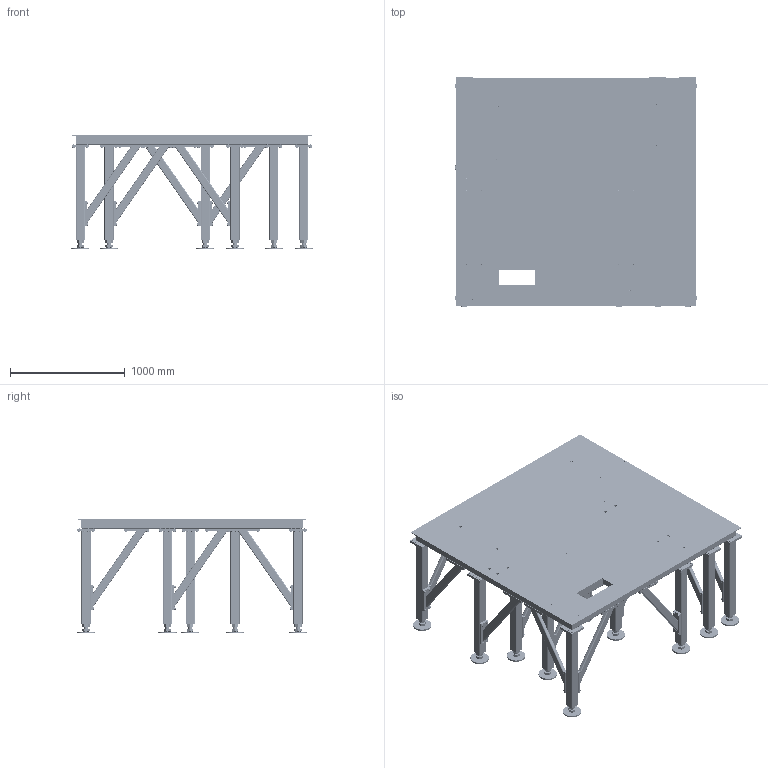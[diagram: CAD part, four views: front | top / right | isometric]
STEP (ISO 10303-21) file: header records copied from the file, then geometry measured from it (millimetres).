
FILE_DESCRIPTION (( 'STEP AP214' ), '1' );
FILE_NAME ('FAU-THN7-01.STEP', '2025-02-02T12:10:01', ( '' ), ( '' ), 'SwSTEP 2.0', 'SolidWorks 2017', '' );
FILE_SCHEMA (( 'AUTOMOTIVE_DESIGN' ));
Length unit declared in the file: millimetre
Products named in the file (18): FAU-THN7-07; FAU-THN7-05_2; z_Screw_H_SCREW H M10x30-26; z-M10 assy; z-ecrou_m36; THN7-ESQ; FAU-THN7-05_1; FAU-THN7-03-04_TOLE INOX; FAU-THN7-06_1<Brut d''usinage>; FAU-THN7-03-04; FAU-THN7-05_2<Brut d''usinage>; z_Washer_WASHER M 10; FAU-THN7-02_D‚faut<Brut d''usinage>; FAU-THN7-07_DWG; FAU-THN7-05_1<Brut d''usinage>; THN7-ESQ-ROUGE; FAU-THN7-01; z_m36x140
Assembly tree (165 placements, depth 4):
  THN7-ESQ
  THN7-ESQ-ROUGE
  FAU-THN7-01
    FAU-THN7-02_D‚faut<Brut d''usinage>
    FAU-THN7-05_1  x12
      FAU-THN7-05_2<Brut d''usinage>
      z-M10 assy
        z_Screw_H_SCREW H M10x30-26
        z_Washer_WASHER M 10
      FAU-THN7-06_1<Brut d''usinage>
      FAU-THN7-07_DWG
        z_m36x140
        z-ecrou_m36
        FAU-THN7-07
    FAU-THN7-05_2  x2
      FAU-THN7-05_1<Brut d''usinage>
      z-M10 assy
        z_Screw_H_SCREW H M10x30-26
        z_Washer_WASHER M 10
      FAU-THN7-06_1<Brut d''usinage>
      FAU-THN7-07_DWG
        z_m36x140
        z-ecrou_m36
        FAU-THN7-07
    FAU-THN7-03-04
    FAU-THN7-03-04_TOLE INOX
    z-M10 assy  x112
      z_Screw_H_SCREW H M10x30-26
      z_Washer_WASHER M 10
Bounding box: 2109.47 x 2009.47 x 1000 mm (x, y, z)
Volume: 101746804.6 mm3; surface area: 47155428.5 mm2
Topology: 723 solids, 723 shells, 9788 faces, 23572 edges, 15400 vertices
Faces by surface type: plane 4420, cylinder 3910, cone 1430, bspline 28
Entity records: 84701 total; most frequent: DIRECTION 14116, CARTESIAN_POINT 13771, ORIENTED_EDGE 12578, EDGE_CURVE 6289, AXIS2_PLACEMENT_3D 5420, VERTEX_POINT 4141, EDGE_LOOP 3426, LINE 3276
